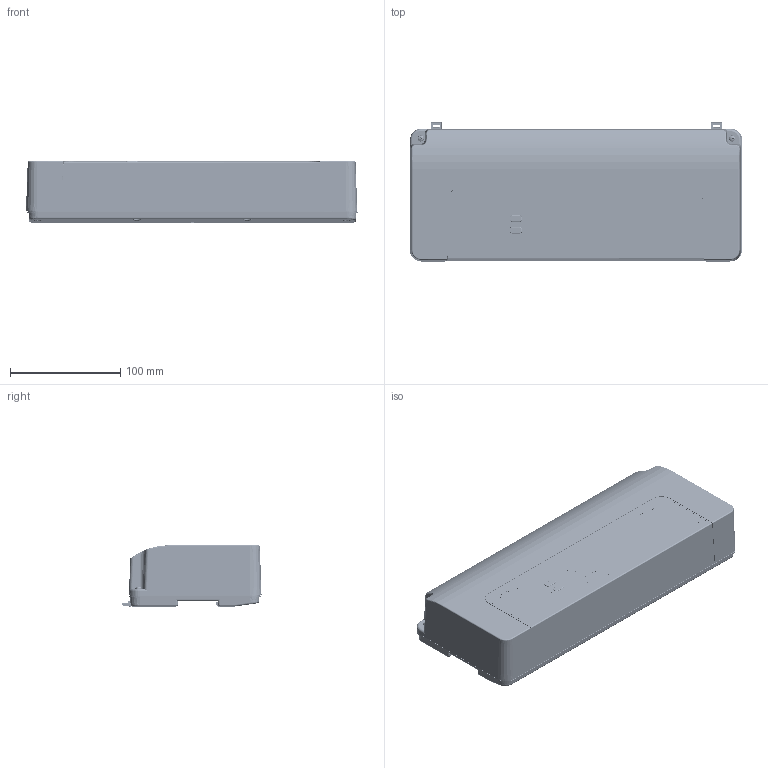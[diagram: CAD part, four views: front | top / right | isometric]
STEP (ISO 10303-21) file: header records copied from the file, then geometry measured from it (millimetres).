
FILE_DESCRIPTION(/* description */ (''),/* implementation_level */ '2;1');
FILE_NAME(/* name */ 'PS-10 230.step',/* time_stamp */ '2026-01-24T12:09:12+01:00',/* author */ (''),/* organization */ (''),/* preprocessor_version */ 'ST-DEVELOPER v20.1',/* originating_system */ 'Autodesk Translation Framework v14.24.0.0',/* authorisation */ '');
FILE_SCHEMA (('AUTOMOTIVE_DESIGN { 1 0 10303 214 3 1 1 }'));
Products named in the file (39): Wer.2_PS10; spod4; szyna4p; Antywyrwanie_1; Antena zewnetrzna 868; sma tht_przykręcana; pokrywa2; plytka_gorna_2; plytka_dolna_1; SWITCH 6X6X7,3; usb pozioe; 04P; 04P_1; Gora2; tuleje diodek; Pleksa_ps10; 04P_2; 04P_3; 04P_4; 04P_5; 04P_6; 2EDGR-5.0; 2EDGK-5.0; oprawka bezpiecznika; Bryła1; Bryła1_1; tht prosty; zaczep; S_023.05.000.00062/...066; S_023.05.000.00063/...064; gniazdo1pin r3.5; laczka1pin r3,5; 03P; 2EDGR-5.0_1; 2EDGK-5.0_1; 06P; 06P_1; 2EDGR-5.0_2; 2EDGK-5.0_2
Assembly tree (112 placements, depth 3):
  Wer.2_PS10
    spod4
    szyna4p
    Antywyrwanie_1  x6
    Antena zewnetrzna 868
    sma tht_przykręcana
    pokrywa2
    gniazdo1pin r3.5  x12
    laczka1pin r3,5  x12
    plytka_gorna_2
    plytka_dolna_1
    SWITCH 6X6X7,3  x4
    usb pozioe
    04P
      2EDGR-5.0
      2EDGK-5.0
    04P_1
      2EDGR-5.0
      2EDGK-5.0
    Gora2
    tuleje diodek
    Pleksa_ps10
    04P_2
      2EDGR-5.0
      2EDGK-5.0
    04P_3
      2EDGR-5.0
      2EDGK-5.0
    04P_4
      2EDGR-5.0
      2EDGK-5.0
    04P_5
      2EDGR-5.0
      2EDGK-5.0
    04P_6
      2EDGR-5.0
      2EDGK-5.0
    oprawka bezpiecznika
      Bryła1
      Bryła1_1
    tht prosty  x6
    zaczep  x2
    S_023.05.000.00062/...066  x21
    S_023.05.000.00063/...064  x5
    03P
      2EDGR-5.0_1
      2EDGK-5.0_1
    06P
      2EDGR-5.0_2
      2EDGK-5.0_2
    06P_1
      2EDGR-5.0_2
      2EDGK-5.0_2
Bounding box: 300.74 x 125.97 x 55.7 mm (x, y, z)
Volume: 411069.4 mm3; surface area: 488930.7 mm2
Topology: 123 solids, 123 shells, 22442 faces, 60647 edges, 39631 vertices
Faces by surface type: plane 14519, bspline 5356, cylinder 1684, cone 531, torus 284, sphere 68
Full cylindrical faces by diameter (mm): 0.25 x1, 0.601 x1, 1.2 x1, 1.5 x43, 1.8 x12, 2 x1, 2.1 x12, 2.5 x3, 2.7 x12, 2.8 x55, 2.83 x26, 3 x55, 3.2 x11, 3.295 x1, 3.3 x43, 3.5 x4, 4 x88, 4.2 x4, 4.5 x2, 4.7 x1, 6 x1, 6.15 x1, 6.3 x1, 6.5 x2, 7.5 x1, 7.7 x1, 8 x1, 10 x1, 10.2 x1
Entity records: 351193 total; most frequent: CARTESIAN_POINT 100742, ORIENTED_EDGE 55818, DIRECTION 43692, EDGE_CURVE 27909, LINE 21164, VECTOR 21164, VERTEX_POINT 18257, AXIS2_PLACEMENT_3D 11264
